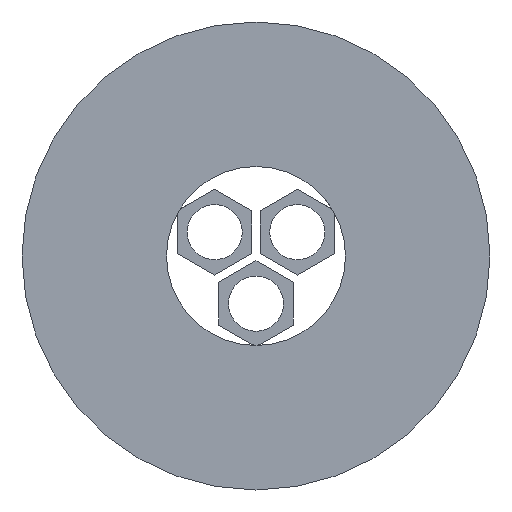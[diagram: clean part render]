
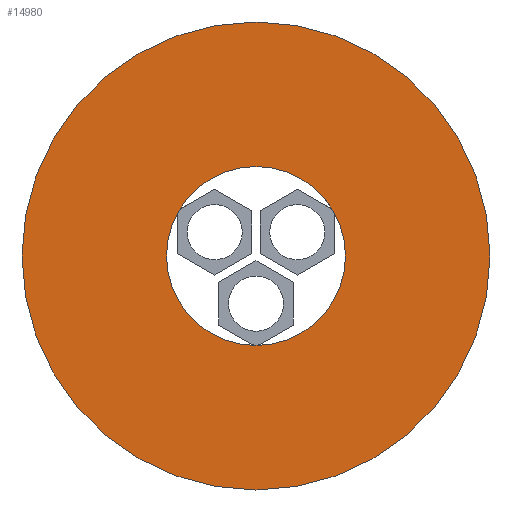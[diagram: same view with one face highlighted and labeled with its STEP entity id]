
A CAD part, front view. The second image highlights one B-rep face of the part: STEP entity #14980.
In plain terms, the highlighted planar face has unit normal (0, -1, 0).
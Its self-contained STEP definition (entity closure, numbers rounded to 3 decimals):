
#120=CARTESIAN_POINT('',(-102.693,31.409,0.));
#130=VERTEX_POINT('',#120);
#160=CARTESIAN_POINT('',(-96.193,31.409,0.));
#170=DIRECTION('',(0.,-1.,0.));
#180=DIRECTION('',(-1.,0.,0.));
#190=AXIS2_PLACEMENT_3D('',#160,#170,#180);
#200=CIRCLE('',#190,6.5);
#210=CARTESIAN_POINT('',(-89.693,31.409,
0.));
#220=VERTEX_POINT('',#210);
#230=EDGE_CURVE('',#220,#130,#200,.T.);
#14520=CARTESIAN_POINT('',(-113.193,31.409,0.));
#14530=VERTEX_POINT('',#14520);
#14560=CARTESIAN_POINT('',(-96.193,31.409,0.));
#14570=DIRECTION('',(0.,-1.,0.));
#14580=DIRECTION('',(1.,0.,0.));
#14590=AXIS2_PLACEMENT_3D('',#14560,#14570,#14580);
#14600=CIRCLE('',#14590,17.);
#14610=CARTESIAN_POINT('',(-79.193,31.409,
0.));
#14620=VERTEX_POINT('',#14610);
#14630=EDGE_CURVE('',#14530,#14620,#14600,.T.);
#14830=CARTESIAN_POINT('',(-87.693,31.409,
0.));
#14840=DIRECTION('',(0.,1.,0.));
#14850=DIRECTION('',(-1.,0.,0.));
#14860=AXIS2_PLACEMENT_3D('',#14830,#14840,#14850);
#14870=PLANE('',#14860);
#14880=EDGE_CURVE('',#14620,#14530,#14600,.T.);
#14890=ORIENTED_EDGE('',*,*,#14880,.T.);
#14900=ORIENTED_EDGE('',*,*,#14630,.T.);
#14910=EDGE_LOOP('',(#14900,#14890));
#14920=FACE_OUTER_BOUND('',#14910,.T.);
#14930=EDGE_CURVE('',#130,#220,#200,.T.);
#14940=ORIENTED_EDGE('',*,*,#14930,.F.);
#14950=ORIENTED_EDGE('',*,*,#230,.F.);
#14960=EDGE_LOOP('',(#14950,#14940));
#14970=FACE_BOUND('',#14960,.T.);
#14980=ADVANCED_FACE('',(#14920,#14970),#14870,.F.);
